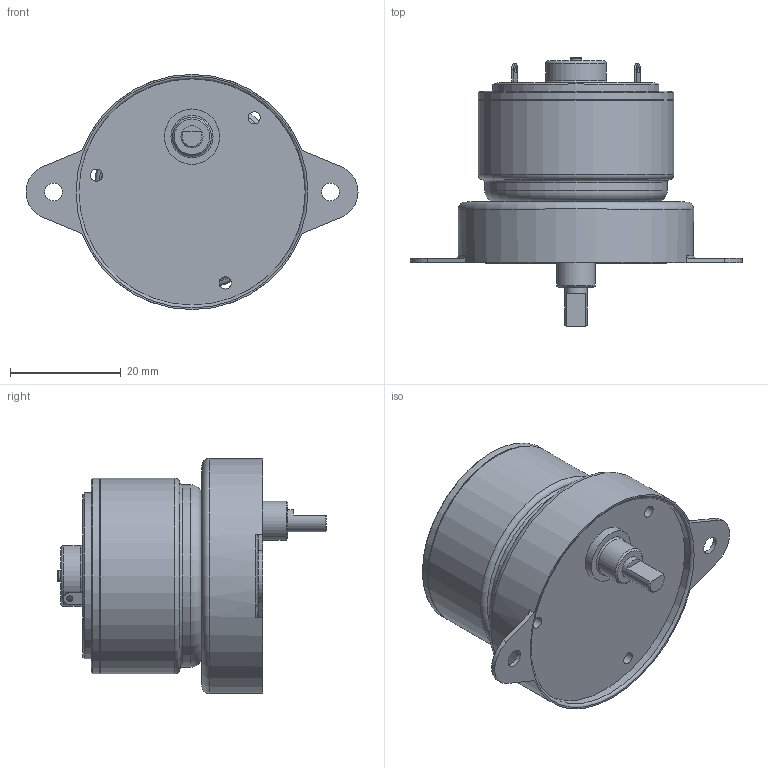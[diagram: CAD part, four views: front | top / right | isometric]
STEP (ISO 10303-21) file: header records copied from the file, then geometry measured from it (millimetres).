
FILE_DESCRIPTION(/* description */ (''),/* implementation_level */ '2;1');
FILE_NAME(/* name */ 'TP-3522N-HA.stp',/* time_stamp */ '2024-03-25T16:16:02+09:00',/* author */ ('user'),/* organization */ (''),/* preprocessor_version */ 'ST-DEVELOPER v20',/* originating_system */ 'Autodesk Inventor 2024',/* authorisation */ '');
FILE_SCHEMA (('AUTOMOTIVE_DESIGN { 1 0 10303 214 3 1 1 }'));
Length unit declared in the file: millimetre
Products named in the file (3): TP-3522N-HA; TP-3522NA; HA
Assembly tree (2 placements, depth 2):
  TP-3522N-HA
    TP-3522NA
    HA
Bounding box: 60 x 48.6 x 42.5 mm (x, y, z)
Volume: 34122.2 mm3; surface area: 9772.5 mm2
Topology: 2 solids, 2 shells, 87 faces, 192 edges, 126 vertices
Faces by surface type: plane 35, cylinder 32, torus 12, cone 8
Full cylindrical faces by diameter (mm): 1.1 x2, 2 x2, 2.113 x3, 2.2 x3, 2.4 x2, 3 x1, 3.2 x2, 4 x1, 5 x1, 7 x1, 10 x2, 11 x1, 30 x1, 33 x1, 35.2 x1, 35.4 x2, 40.9 x1, 42.5 x1
Entity records: 2658 total; most frequent: DIRECTION 475, CARTESIAN_POINT 447, ORIENTED_EDGE 378, AXIS2_PLACEMENT_3D 200, EDGE_CURVE 189, VERTEX_POINT 126, EDGE_LOOP 121, CIRCLE 108
